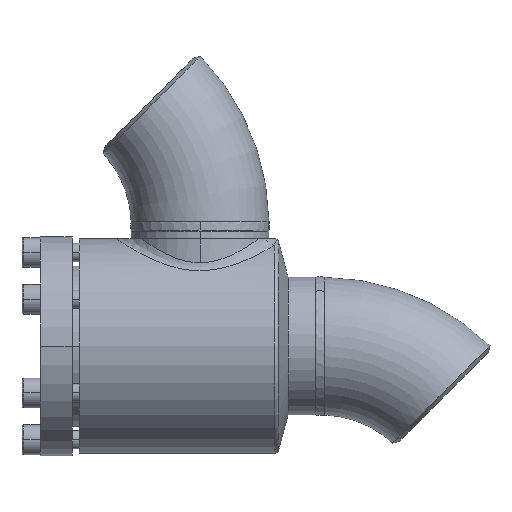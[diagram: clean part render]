
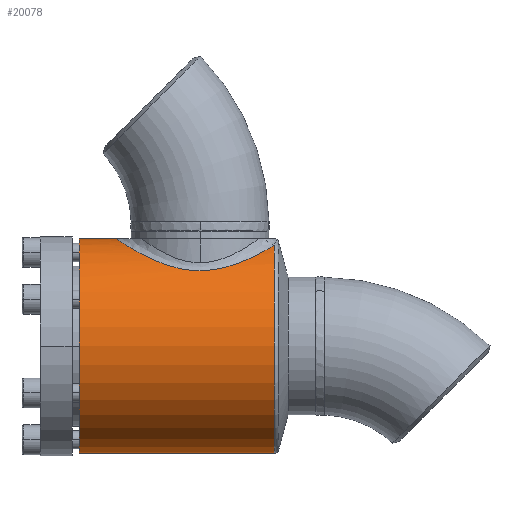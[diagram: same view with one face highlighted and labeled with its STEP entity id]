
A CAD part, left-side view. The second image highlights one B-rep face of the part: STEP entity #20078.
In plain terms, the highlighted cylindrical face has radius 47 mm (diameter 94 mm), a partial arc.
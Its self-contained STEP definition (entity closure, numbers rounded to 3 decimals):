
#1529 = EDGE_CURVE ( 'NONE', #32682, #30692, #5501, .T. ) ;
#2208 = LINE ( 'NONE', #2209, #2210 ) ;
#2209 = CARTESIAN_POINT ( 'NONE',  ( 0., -91., -47. ) ) ;
#2210 = VECTOR ( 'NONE', #2211, 1000. ) ;
#2211 = DIRECTION ( 'NONE',  ( 0., 1., 0. ) ) ;
#2368 = EDGE_CURVE ( 'NONE', #15597, #28700, #26392, .T. ) ;
#19184 = ORIENTED_EDGE ( 'NONE', *, *, #29100, .T. ) ;
#19977 = EDGE_LOOP ( 'NONE', ( #28269, #4361, #24571, #19184, #10454 ) ) ;
#20078 = ADVANCED_FACE ( 'NONE', ( #28079 ), #28080, .T. ) ;
#4361 = ORIENTED_EDGE ( 'NONE', *, *, #30989, .T. ) ;
#5501 = CIRCLE ( 'NONE', #5502, 47. ) ;
#5502 = AXIS2_PLACEMENT_3D ( 'NONE', #5503, #5504, #5505 ) ;
#5503 = CARTESIAN_POINT ( 'NONE',  ( 0., 0., 0. ) ) ;
#5504 = DIRECTION ( 'NONE',  ( 0., 1., 0. ) ) ;
#5505 = DIRECTION ( 'NONE',  ( 0., 0., 1. ) ) ;
#24571 = ORIENTED_EDGE ( 'NONE', *, *, #2368, .T. ) ;
#8439 = EDGE_CURVE ( 'NONE', #13406, #32682, #2208, .T. ) ;
#26392 = B_SPLINE_CURVE_WITH_KNOTS ( 'NONE', 3,
 ( #26393, #26394, #26395, #26396, #26397, #26398, #26399, #26400, #26401, #26418, #26419, #26420, #26421, #26422, #26423, #26424, #26425, #26426, #26427, #26428, #26429, #26430, #26431, #26432, #26433, #26451, #26452, #26453, #26454, #26455, #26456, #26457, #26458, #26459, #26460, #26461, #26462, #26463, #26464, #26465, #26466, #26486, #26487, #26488, #26489, #26490, #26491, #26492, #26493, #26494, #26495, #26496, #26497, #26498, #26499, #26500, #26501, #26520, #26521, #26522, #26523, #26524 ),
 .UNSPECIFIED., .F., .F.,
 ( 4, 2, 2, 2, 2, 2, 2, 2, 2, 2, 2, 2, 2, 2, 2, 2, 2, 2, 2, 2, 2, 2, 2, 2, 2, 2, 2, 2, 2, 2, 4 ),
 ( 0.017, 0.023, 0.026, 0.029, 0.035, 0.039, 0.04, 0.042, 0.048, 0.051, 0.052, 0.054, 0.06, 0.063, 0.066, 0.069, 0.072, 0.078, 0.081, 0.083, 0.084, 0.09, 0.093, 0.095, 0.096, 0.103, 0.106, 0.107, 0.109, 0.112, 0.115 ),
 .UNSPECIFIED. ) ;
#26393 = CARTESIAN_POINT ( 'NONE',  ( -16.073, -85.446, 44.166 ) ) ;
#26394 = CARTESIAN_POINT ( 'NONE',  ( -17.749, -84.43, 43.556 ) ) ;
#26395 = CARTESIAN_POINT ( 'NONE',  ( -19.293, -83.29, 42.887 ) ) ;
#26396 = CARTESIAN_POINT ( 'NONE',  ( -21.444, -81.41, 41.831 ) ) ;
#26397 = CARTESIAN_POINT ( 'NONE',  ( -22.133, -80.755, 41.469 ) ) ;
#26398 = CARTESIAN_POINT ( 'NONE',  ( -23.459, -79.389, 40.734 ) ) ;
#26399 = CARTESIAN_POINT ( 'NONE',  ( -24.096, -78.676, 40.359 ) ) ;
#26400 = CARTESIAN_POINT ( 'NONE',  ( -25.907, -76.48, 39.24 ) ) ;
#26401 = CARTESIAN_POINT ( 'NONE',  ( -26.989, -74.936, 38.497 ) ) ;
#26418 = CARTESIAN_POINT ( 'NONE',  ( -28.44, -72.491, 37.424 ) ) ;
#26419 = CARTESIAN_POINT ( 'NONE',  ( -28.894, -71.655, 37.073 ) ) ;
#26420 = CARTESIAN_POINT ( 'NONE',  ( -29.533, -70.366, 36.563 ) ) ;
#26421 = CARTESIAN_POINT ( 'NONE',  ( -29.739, -69.93, 36.396 ) ) ;
#26422 = CARTESIAN_POINT ( 'NONE',  ( -30.137, -69.047, 36.067 ) ) ;
#26423 = CARTESIAN_POINT ( 'NONE',  ( -30.328, -68.599, 35.906 ) ) ;
#26424 = CARTESIAN_POINT ( 'NONE',  ( -31.243, -66.344, 35.126 ) ) ;
#26425 = CARTESIAN_POINT ( 'NONE',  ( -31.842, -64.482, 34.576 ) ) ;
#26426 = CARTESIAN_POINT ( 'NONE',  ( -32.541, -61.591, 33.914 ) ) ;
#26427 = CARTESIAN_POINT ( 'NONE',  ( -32.74, -60.61, 33.721 ) ) ;
#26428 = CARTESIAN_POINT ( 'NONE',  ( -32.986, -59.111, 33.48 ) ) ;
#26429 = CARTESIAN_POINT ( 'NONE',  ( -33.059, -58.608, 33.408 ) ) ;
#26430 = CARTESIAN_POINT ( 'NONE',  ( -33.186, -57.603, 33.282 ) ) ;
#26431 = CARTESIAN_POINT ( 'NONE',  ( -33.239, -57.1, 33.229 ) ) ;
#26432 = CARTESIAN_POINT ( 'NONE',  ( -33.462, -54.583, 33.006 ) ) ;
#26433 = CARTESIAN_POINT ( 'NONE',  ( -33.49, -52.562, 32.976 ) ) ;
#26451 = CARTESIAN_POINT ( 'NONE',  ( -33.307, -49.52, 33.161 ) ) ;
#26452 = CARTESIAN_POINT ( 'NONE',  ( -33.207, -48.498, 33.262 ) ) ;
#26453 = CARTESIAN_POINT ( 'NONE',  ( -32.933, -46.49, 33.532 ) ) ;
#26454 = CARTESIAN_POINT ( 'NONE',  ( -32.761, -45.501, 33.702 ) ) ;
#26455 = CARTESIAN_POINT ( 'NONE',  ( -32.346, -43.55, 34.1 ) ) ;
#26456 = CARTESIAN_POINT ( 'NONE',  ( -32.103, -42.587, 34.33 ) ) ;
#26457 = CARTESIAN_POINT ( 'NONE',  ( -31.549, -40.688, 34.839 ) ) ;
#26458 = CARTESIAN_POINT ( 'NONE',  ( -31.237, -39.749, 35.121 ) ) ;
#26459 = CARTESIAN_POINT ( 'NONE',  ( -30.211, -37.009, 36.016 ) ) ;
#26460 = CARTESIAN_POINT ( 'NONE',  ( -29.406, -35.272, 36.683 ) ) ;
#26461 = CARTESIAN_POINT ( 'NONE',  ( -28.021, -32.781, 37.738 ) ) ;
#26462 = CARTESIAN_POINT ( 'NONE',  ( -27.529, -31.97, 38.099 ) ) ;
#26463 = CARTESIAN_POINT ( 'NONE',  ( -26.744, -30.781, 38.65 ) ) ;
#26464 = CARTESIAN_POINT ( 'NONE',  ( -26.475, -30.389, 38.835 ) ) ;
#26465 = CARTESIAN_POINT ( 'NONE',  ( -25.92, -29.615, 39.208 ) ) ;
#26466 = CARTESIAN_POINT ( 'NONE',  ( -25.634, -29.233, 39.396 ) ) ;
#26486 = CARTESIAN_POINT ( 'NONE',  ( -24.175, -27.357, 40.33 ) ) ;
#26487 = CARTESIAN_POINT ( 'NONE',  ( -22.902, -25.964, 41.072 ) ) ;
#26488 = CARTESIAN_POINT ( 'NONE',  ( -20.822, -24.029, 42.143 ) ) ;
#26489 = CARTESIAN_POINT ( 'NONE',  ( -20.099, -23.411, 42.494 ) ) ;
#26490 = CARTESIAN_POINT ( 'NONE',  ( -18.969, -22.523, 43.004 ) ) ;
#26491 = CARTESIAN_POINT ( 'NONE',  ( -18.584, -22.235, 43.172 ) ) ;
#26492 = CARTESIAN_POINT ( 'NONE',  ( -17.798, -21.671, 43.502 ) ) ;
#26493 = CARTESIAN_POINT ( 'NONE',  ( -17.396, -21.396, 43.664 ) ) ;
#26494 = CARTESIAN_POINT ( 'NONE',  ( -15.356, -20.064, 44.455 ) ) ;
#26495 = CARTESIAN_POINT ( 'NONE',  ( -13.635, -19.147, 45.018 ) ) ;
#26496 = CARTESIAN_POINT ( 'NONE',  ( -10.906, -18.006, 45.727 ) ) ;
#26497 = CARTESIAN_POINT ( 'NONE',  ( -9.972, -17.666, 45.94 ) ) ;
#26498 = CARTESIAN_POINT ( 'NONE',  ( -8.53, -17.219, 46.222 ) ) ;
#26499 = CARTESIAN_POINT ( 'NONE',  ( -8.041, -17.081, 46.31 ) ) ;
#26500 = CARTESIAN_POINT ( 'NONE',  ( -7.058, -16.829, 46.47 ) ) ;
#26501 = CARTESIAN_POINT ( 'NONE',  ( -6.563, -16.715, 46.542 ) ) ;
#26520 = CARTESIAN_POINT ( 'NONE',  ( -5.066, -16.41, 46.737 ) ) ;
#26521 = CARTESIAN_POINT ( 'NONE',  ( -4.049, -16.255, 46.836 ) ) ;
#26522 = CARTESIAN_POINT ( 'NONE',  ( -2.024, -16.051, 46.967 ) ) ;
#26523 = CARTESIAN_POINT ( 'NONE',  ( -1.011, -16., 47. ) ) ;
#26524 = CARTESIAN_POINT ( 'NONE',  ( 0., -16., 47. ) ) ;
#10454 = ORIENTED_EDGE ( 'NONE', *, *, #1529, .F. ) ;
#27021 = CARTESIAN_POINT ( 'NONE',  ( -16.073, -85.446, 44.166 ) ) ;
#27192 = CARTESIAN_POINT ( 'NONE',  ( 0., 0., -47. ) ) ;
#11070 = LINE ( 'NONE', #11071, #11072 ) ;
#11071 = CARTESIAN_POINT ( 'NONE',  ( 0., -91., 47. ) ) ;
#11072 = VECTOR ( 'NONE', #11073, 1000. ) ;
#11073 = DIRECTION ( 'NONE',  ( 0., 1., 0. ) ) ;
#28079 = FACE_OUTER_BOUND ( 'NONE', #19977, .T. ) ;
#28080 = CYLINDRICAL_SURFACE ( 'NONE', #28081, 47. ) ;
#28081 = AXIS2_PLACEMENT_3D ( 'NONE', #28082, #28083, #28084 ) ;
#28082 = CARTESIAN_POINT ( 'NONE',  ( 0., -91., 0. ) ) ;
#28083 = DIRECTION ( 'NONE',  ( 0., 1., 0. ) ) ;
#28084 = DIRECTION ( 'NONE',  ( 0., 0., 1. ) ) ;
#28269 = ORIENTED_EDGE ( 'NONE', *, *, #8439, .F. ) ;
#28377 = CARTESIAN_POINT ( 'NONE',  ( 0., -16., 47. ) ) ;
#28700 = VERTEX_POINT ( 'NONE', #28377 ) ;
#29100 = EDGE_CURVE ( 'NONE', #28700, #30692, #11070, .T. ) ;
#12756 = CARTESIAN_POINT ( 'NONE',  ( 0., -85.446, -47. ) ) ;
#12928 = CARTESIAN_POINT ( 'NONE',  ( 0., 0., 47. ) ) ;
#13235 = CIRCLE ( 'NONE', #13236, 47. ) ;
#13236 = AXIS2_PLACEMENT_3D ( 'NONE', #13237, #13238, #13239 ) ;
#13237 = CARTESIAN_POINT ( 'NONE',  ( 0., -85.446, 0. ) ) ;
#13238 = DIRECTION ( 'NONE',  ( 0., 1., 0. ) ) ;
#13239 = DIRECTION ( 'NONE',  ( 0., 0., -1. ) ) ;
#13406 = VERTEX_POINT ( 'NONE', #12756 ) ;
#30692 = VERTEX_POINT ( 'NONE', #12928 ) ;
#30989 = EDGE_CURVE ( 'NONE', #13406, #15597, #13235, .T. ) ;
#15597 = VERTEX_POINT ( 'NONE', #27021 ) ;
#32682 = VERTEX_POINT ( 'NONE', #27192 ) ;
